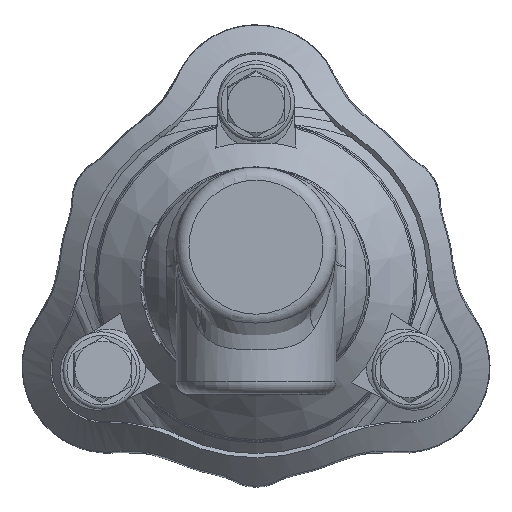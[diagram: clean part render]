
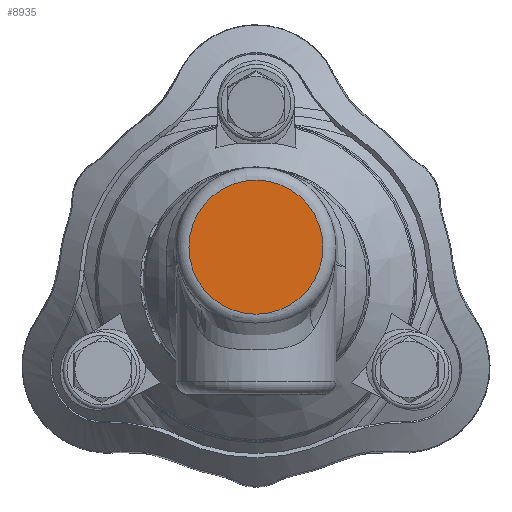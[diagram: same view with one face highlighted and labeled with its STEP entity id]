
A CAD part, top view. The second image highlights one B-rep face of the part: STEP entity #8935.
In plain terms, the highlighted planar face has unit normal (0, 0, 1).
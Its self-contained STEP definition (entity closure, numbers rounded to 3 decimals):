
#174 = AXIS2_PLACEMENT_3D ( 'NONE', #10502, #10511, #10512 ) ;
#1149 = CIRCLE ( 'NONE', #14199, 26. ) ;
#1613 = FACE_OUTER_BOUND ( 'NONE', #13099, .T. ) ;
#4071 = EDGE_CURVE ( 'NONE', #8835, #8835, #1149, .T. ) ;
#4380 = CARTESIAN_POINT ( 'NONE',  ( 26., 13.011, 67.5 ) ) ;
#8835 = VERTEX_POINT ( 'NONE', #4380 ) ;
#8935 = ADVANCED_FACE ( 'NONE', ( #1613 ), #10509, .T. ) ;
#10502 = CARTESIAN_POINT ( 'NONE',  ( 0., 13.011, 67.5 ) ) ;
#10509 = PLANE ( 'NONE',  #174 ) ;
#10511 = DIRECTION ( 'NONE',  ( 0., 0., 1. ) ) ;
#10512 = DIRECTION ( 'NONE',  ( 1., 0., 0. ) ) ;
#12685 = ORIENTED_EDGE ( 'NONE', *, *, #4071, .T. ) ;
#13099 = EDGE_LOOP ( 'NONE', ( #12685 ) ) ;
#14199 = AXIS2_PLACEMENT_3D ( 'NONE', #15493, #15494, #15495 ) ;
#15493 = CARTESIAN_POINT ( 'NONE',  ( 0., 13.011, 67.5 ) ) ;
#15494 = DIRECTION ( 'NONE',  ( 0., 0., 1. ) ) ;
#15495 = DIRECTION ( 'NONE',  ( 1., 0., 0. ) ) ;
